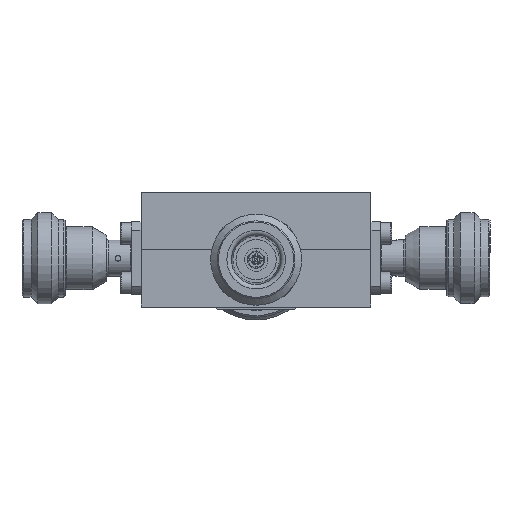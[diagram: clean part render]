
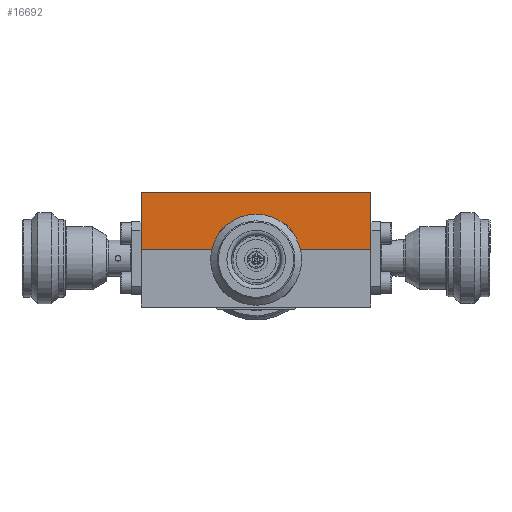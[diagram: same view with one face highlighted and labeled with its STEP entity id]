
A CAD part, left-side view. The second image highlights one B-rep face of the part: STEP entity #16692.
In plain terms, the highlighted planar face has unit normal (-1, 0, 0).
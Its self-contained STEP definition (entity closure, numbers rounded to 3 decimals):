
#989=LINE('',#31055,#1753);
#995=LINE('',#31068,#1759);
#998=LINE('',#31082,#1762);
#1000=LINE('',#31090,#1764);
#1753=VECTOR('',#25327,1000.);
#1759=VECTOR('',#25335,1000.);
#1762=VECTOR('',#25350,1000.);
#1764=VECTOR('',#25358,1000.);
#2654=PLANE('',#20720);
#6572=ORIENTED_EDGE('',*,*,#8755,.F.);
#6573=ORIENTED_EDGE('',*,*,#8761,.F.);
#6574=ORIENTED_EDGE('',*,*,#8772,.T.);
#6575=ORIENTED_EDGE('',*,*,#8768,.T.);
#6576=ORIENTED_EDGE('',*,*,#8749,.T.);
#6577=ORIENTED_EDGE('',*,*,#8747,.T.);
#8747=EDGE_CURVE('',#10417,#10417,#11346,.T.);
#8749=EDGE_CURVE('',#10419,#10419,#11348,.T.);
#8755=EDGE_CURVE('',#10429,#10430,#989,.T.);
#8761=EDGE_CURVE('',#10434,#10429,#995,.T.);
#8768=EDGE_CURVE('',#10440,#10430,#998,.T.);
#8772=EDGE_CURVE('',#10434,#10440,#1000,.T.);
#10417=VERTEX_POINT('',#31028);
#10419=VERTEX_POINT('',#31034);
#10429=VERTEX_POINT('',#31056);
#10430=VERTEX_POINT('',#31057);
#10434=VERTEX_POINT('',#31067);
#10440=VERTEX_POINT('',#31083);
#11346=CIRCLE('',#20695,0.611);
#11348=CIRCLE('',#20699,0.611);
#13174=EDGE_LOOP('',(#6572,#6573,#6574,#6575));
#13175=EDGE_LOOP('',(#6576));
#13176=EDGE_LOOP('',(#6577));
#15162=FACE_BOUND('',#13174,.T.);
#15163=FACE_BOUND('',#13175,.T.);
#15164=FACE_BOUND('',#13176,.T.);
#16692=ADVANCED_FACE('',(#15162,#15163,#15164),#2654,.T.);
#20695=AXIS2_PLACEMENT_3D('',#31027,#25295,#25296);
#20699=AXIS2_PLACEMENT_3D('',#31033,#25303,#25304);
#20720=AXIS2_PLACEMENT_3D('',#31089,#25356,#25357);
#25295=DIRECTION('',(1.,0.,0.));
#25296=DIRECTION('',(0.,0.,1.));
#25303=DIRECTION('',(1.,0.,0.));
#25304=DIRECTION('',(0.,0.,1.));
#25327=DIRECTION('',(0.,1.,0.));
#25335=DIRECTION('',(0.,0.,-1.));
#25350=DIRECTION('',(0.,0.,-1.));
#25356=DIRECTION('',(-1.,0.,0.));
#25357=DIRECTION('',(0.,0.,1.));
#25358=DIRECTION('',(0.,1.,0.));
#31027=CARTESIAN_POINT('',(-50.,-4.3,2.55));
#31028=CARTESIAN_POINT('',(-50.,-4.3,3.161));
#31033=CARTESIAN_POINT('',(-50.,4.3,2.55));
#31034=CARTESIAN_POINT('',(-50.,4.3,3.161));
#31055=CARTESIAN_POINT('',(-50.,-20.,0.));
#31056=CARTESIAN_POINT('',(-50.,-20.,0.));
#31057=CARTESIAN_POINT('',(-50.,20.,0.));
#31067=CARTESIAN_POINT('',(-50.,-20.,10.));
#31068=CARTESIAN_POINT('',(-50.,-20.,10.));
#31082=CARTESIAN_POINT('',(-50.,20.,10.));
#31083=CARTESIAN_POINT('',(-50.,20.,10.));
#31089=CARTESIAN_POINT('',(-50.,-20.,10.));
#31090=CARTESIAN_POINT('',(-50.,-20.,10.));
